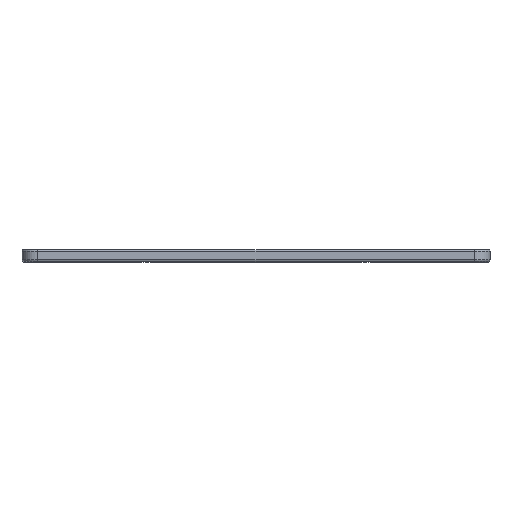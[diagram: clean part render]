
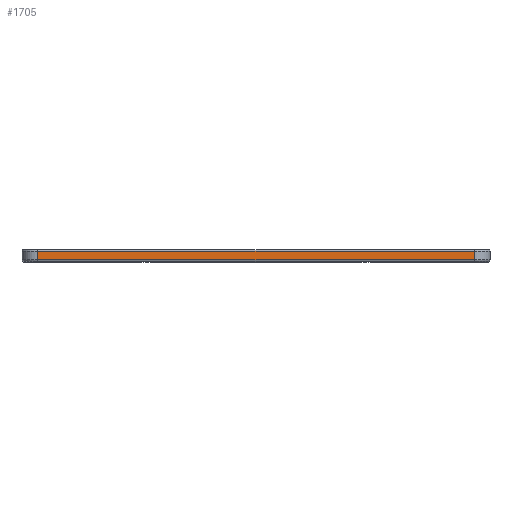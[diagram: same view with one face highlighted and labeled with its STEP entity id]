
A CAD part, top view. The second image highlights one B-rep face of the part: STEP entity #1705.
In plain terms, the highlighted planar face has unit normal (0, 0, 1).
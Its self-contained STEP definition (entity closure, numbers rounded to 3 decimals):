
#9 = EDGE_CURVE ( 'NONE', #2195, #1535, #1185, .T. ) ;
#108 = LINE ( 'NONE', #688, #856 ) ;
#194 = CARTESIAN_POINT ( 'NONE',  ( -58.739, 1.7, 69.933 ) ) ;
#221 = CARTESIAN_POINT ( 'NONE',  ( -58.739, 0.3, 69.933 ) ) ;
#324 = VECTOR ( 'NONE', #2659, 1000. ) ;
#358 = EDGE_CURVE ( 'NONE', #2706, #1535, #2280, .T. ) ;
#366 = ORIENTED_EDGE ( 'NONE', *, *, #3235, .T. ) ;
#445 = DIRECTION ( 'NONE',  ( -1., 0., 0. ) ) ;
#581 = LINE ( 'NONE', #1413, #1730 ) ;
#629 = CARTESIAN_POINT ( 'NONE',  ( 13.061, 1.7, 69.933 ) ) ;
#688 = CARTESIAN_POINT ( 'NONE',  ( -58.739, 1.7, 69.933 ) ) ;
#856 = VECTOR ( 'NONE', #2451, 1000. ) ;
#1185 = LINE ( 'NONE', #1342, #324 ) ;
#1192 = CARTESIAN_POINT ( 'NONE',  ( -58.739, 2., 69.933 ) ) ;
#1217 = VECTOR ( 'NONE', #2028, 1000. ) ;
#1231 = PLANE ( 'NONE',  #2170 ) ;
#1342 = CARTESIAN_POINT ( 'NONE',  ( 13.061, 2., 69.933 ) ) ;
#1413 = CARTESIAN_POINT ( 'NONE',  ( -58.739, 2., 69.933 ) ) ;
#1435 = ORIENTED_EDGE ( 'NONE', *, *, #9, .F. ) ;
#1535 = VERTEX_POINT ( 'NONE', #2418 ) ;
#1621 = EDGE_CURVE ( 'NONE', #2195, #2562, #108, .T. ) ;
#1705 = ADVANCED_FACE ( 'NONE', ( #2355 ), #1231, .F. ) ;
#1730 = VECTOR ( 'NONE', #2690, 1000. ) ;
#1788 = CARTESIAN_POINT ( 'NONE',  ( 13.061, 0.3, 69.933 ) ) ;
#2028 = DIRECTION ( 'NONE',  ( 1., 0., 0. ) ) ;
#2170 = AXIS2_PLACEMENT_3D ( 'NONE', #1192, #2226, #445 ) ;
#2181 = EDGE_LOOP ( 'NONE', ( #366, #2885, #1435, #2762 ) ) ;
#2195 = VERTEX_POINT ( 'NONE', #629 ) ;
#2226 = DIRECTION ( 'NONE',  ( 0., 0., -1. ) ) ;
#2280 = LINE ( 'NONE', #1788, #1217 ) ;
#2355 = FACE_OUTER_BOUND ( 'NONE', #2181, .T. ) ;
#2418 = CARTESIAN_POINT ( 'NONE',  ( 13.061, 0.3, 69.933 ) ) ;
#2451 = DIRECTION ( 'NONE',  ( -1., 0., 0. ) ) ;
#2562 = VERTEX_POINT ( 'NONE', #194 ) ;
#2659 = DIRECTION ( 'NONE',  ( 0., -1., 0. ) ) ;
#2690 = DIRECTION ( 'NONE',  ( 0., -1., 0. ) ) ;
#2706 = VERTEX_POINT ( 'NONE', #221 ) ;
#2762 = ORIENTED_EDGE ( 'NONE', *, *, #1621, .T. ) ;
#2885 = ORIENTED_EDGE ( 'NONE', *, *, #358, .T. ) ;
#3235 = EDGE_CURVE ( 'NONE', #2562, #2706, #581, .T. ) ;
